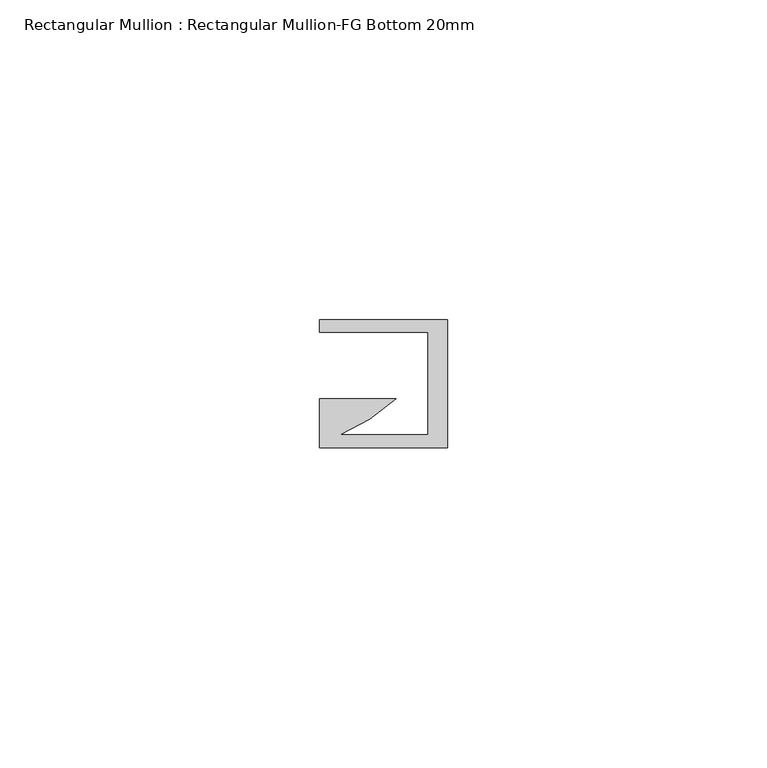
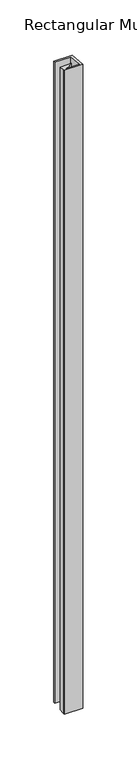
"""IFC4 building model written with IfcOpenShell, lengths in millimetres: member geometry, Rectangular Mullion : Rectangular Mullion-FG Bottom 20mm."""

from ifc_helpers import new_model, si_unit, frame, origin, place, context, project, spatial, ellipse_curve, source, transform, mapped, element, save
from ifc_brep_helpers import plane_surface, cylinder_surface, advanced_brep


def rectangular_mullion_rectangular_mullion_fg_bottom_20mm_79b829b6(model_context):
    return source(origin(), model_context, "Body", "AdvancedBrep", [
        advanced_brep(
        [(-20.0, -0.001, -45.1912438), (0.0, -0.001, -45.1912438), (0.0, -0.001, -773.9460638), (-20.0, -0.001, -773.9460638), (-20.0, -2.001, -45.0066155), (-20.0, -2.001, -774.1306922), (-3.0, -2.001, -45.0066155), (-3.0, -2.001, -774.1306922), (-3.0, -18.001, -43.5295886), (-3.0, -18.001, -775.607719), (-16.7813522, -18.001, -43.5295886), (-16.7813522, -18.001, -775.607719), (-8.0121425, -12.381, -44.0483943), (-8.0121425, -12.381, -775.0889133), (-20.0, -12.381, -44.0483943), (-20.0, -12.381, -775.0889133), (-20.0, -18.001, -43.5295886), (-20.0, -18.001, -775.607719), (-20.0, -20.001, -43.3449603), (-20.0, -20.001, -775.7923474), (0.0, -20.001, -43.3449603), (0.0, -20.001, -775.7923474)],
        [
            (0, 1),
            (1, 2),
            (2, 3),
            (3, 0),
            (4, 0),
            (3, 5),
            (5, 4),
            (6, 4),
            (5, 7),
            (7, 6),
            (8, 6),
            (7, 9),
            (9, 8),
            (10, 8),
            (9, 11),
            (11, 10),
            (12, 10, ellipse_curve(frame((-28.5616269, 10.0319926, -46.1174313), z_axis=(0.0, -0.09192332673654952, -0.9957660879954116), x_axis=(0.0, -0.9957660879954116, 0.09192332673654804)), 30.5369138, 30.4076232)),
            (11, 13, ellipse_curve(frame((-28.5616269, 10.0319926, -773.0198764), z_axis=(0.0, -0.09192332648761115, 0.9957660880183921), x_axis=(0.0, 0.9957660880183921, 0.09192332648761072)), 30.5369138, 30.4076232)),
            (13, 12),
            (14, 12),
            (13, 15),
            (15, 14),
            (16, 14),
            (15, 17),
            (17, 16),
            (18, 16),
            (17, 19),
            (19, 18),
            (20, 18),
            (19, 21),
            (21, 20),
            (1, 20),
            (21, 2),
        ],
        [
            plane_surface(frame((0.0, -0.001, 0.0), z_axis=(0.0, 1.0, 0.0), x_axis=(0.0, 0.0, -1.0))),
            plane_surface(frame((-20.0, -0.001, 0.0), z_axis=(-1.0, 0.0, 0.0), x_axis=(0.0, 0.0, -1.0))),
            plane_surface(frame((-20.0, -2.001, 0.0), z_axis=(0.0, -1.0, 0.0), x_axis=(0.0, 0.0, -1.0))),
            plane_surface(frame((-3.0, -2.001, 0.0), z_axis=(-1.0, 0.0, 0.0), x_axis=(0.0, 0.0, -1.0))),
            plane_surface(frame((-3.0, -18.001, 0.0), z_axis=(0.0, 1.0, 0.0), x_axis=(0.0, 0.0, -1.0))),
            cylinder_surface(frame((-28.5616269, 10.0319926, 0.0), z_axis=(0.0, 0.0, 1.0), x_axis=(-1.0, 0.0, 0.0)), 30.4076232),
            plane_surface(frame((-8.0121425, -12.381, 0.0), z_axis=(0.0, 1.0, 0.0), x_axis=(0.0, 0.0, -1.0))),
            plane_surface(frame((-20.0, -12.381, 0.0), z_axis=(-1.0, 0.0, 0.0), x_axis=(0.0, 0.0, -1.0))),
            plane_surface(frame((-20.0, -18.001, 0.0), z_axis=(-1.0, 0.0, 0.0), x_axis=(0.0, 0.0, -1.0))),
            plane_surface(frame((-20.0, -20.001, 0.0), z_axis=(0.0, -1.0, 0.0), x_axis=(0.0, 0.0, -1.0))),
            plane_surface(frame((0.0, -20.001, 0.0), z_axis=(1.0, 0.0, 0.0), x_axis=(0.0, 0.0, -1.0))),
            plane_surface(frame((-93001.3454707, 91048.7145366, -8450.2784707), z_axis=(0.0, 0.09192332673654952, 0.9957660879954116), x_axis=(1.0, 0.0, 0.0))),
            plane_surface(frame((-304.8, 0.0, -773.9459715), z_axis=(0.0, 0.09192332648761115, -0.9957660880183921), x_axis=(0.0, 0.9957660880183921, 0.09192332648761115))),
        ],
        [
            (0, [[1, 2, 3, 4]]),
            (1, [[5, -4, 6, 7]]),
            (2, [[8, -7, 9, 10]]),
            (3, [[11, -10, 12, 13]]),
            (4, [[14, -13, 15, 16]]),
            (5, [[17, -16, 18, 19]]),
            (6, [[20, -19, 21, 22]]),
            (7, [[23, -22, 24, 25]]),
            (8, [[26, -25, 27, 28]]),
            (9, [[29, -28, 30, 31]]),
            (10, [[32, -31, 33, -2]]),
            (11, [[-1, -5, -8, -11, -14, -17, -20, -23, -26, -29, -32]]),
            (12, [[-33, -30, -27, -24, -21, -18, -15, -12, -9, -6, -3]]),
        ],
    ),
    ])


if __name__ == "__main__":
    model = new_model("IFC4")
    model_context = context("Model", 3, world=origin())
    ifc_project = project(units=[si_unit("LENGTHUNIT", "METRE", prefix="MILLI")], contexts=[model_context])
    site = spatial("IfcSite", under=ifc_project)
    building = spatial("IfcBuilding", under=site)
    placement = place(None, origin())
    rectangular_mullion_rectangular_mullion_fg_bottom_20mm_shape = rectangular_mullion_rectangular_mullion_fg_bottom_20mm_79b829b6(model_context)
    element("IfcMember", 1, ObjectType="Rectangular Mullion : Rectangular Mullion-FG Bottom 20mm", at=placement, inside=building, context=model_context, shape_type="MappedRepresentation", body=[
        mapped(rectangular_mullion_rectangular_mullion_fg_bottom_20mm_shape, transform((0.0, 0.0, 0.0), x_axis=(1.0, 0.0, 0.0), y_axis=(0.0, 1.0, 0.0), z_axis=(0.0, 0.0, 1.0))),
    ])
    save(model, "model.ifc")
